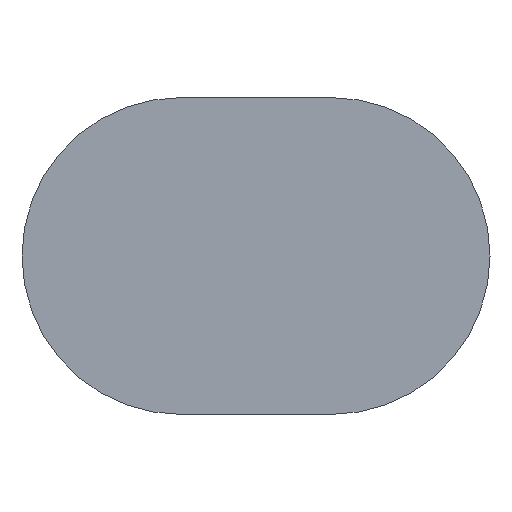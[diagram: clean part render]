
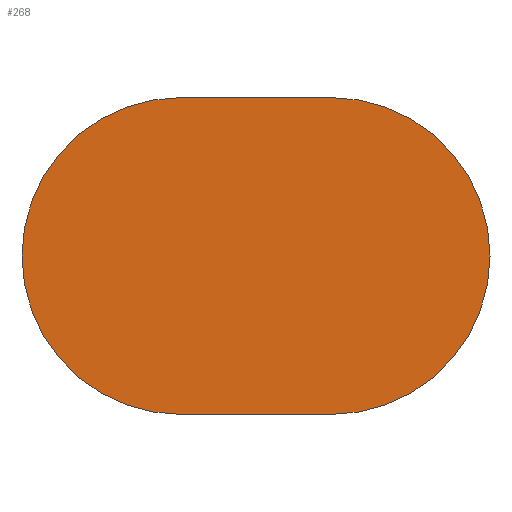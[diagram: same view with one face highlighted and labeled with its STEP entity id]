
A CAD part, left-side view. The second image highlights one B-rep face of the part: STEP entity #268.
In plain terms, the highlighted planar face has unit normal (-1, 0, 0).
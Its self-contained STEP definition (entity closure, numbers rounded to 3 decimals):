
#212 = VERTEX_POINT( '', #576 );
#224 = EDGE_CURVE( '', #246, #486, #591, .T. );
#246 = VERTEX_POINT( '', #614 );
#266 = VERTEX_POINT( '', #636 );
#268 = ADVANCED_FACE( '', ( #638 ), #639, .F. );
#362 = EDGE_CURVE( '', #212, #246, #743, .T. );
#470 = EDGE_CURVE( '', #486, #266, #861, .T. );
#486 = VERTEX_POINT( '', #880 );
#504 = EDGE_CURVE( '', #266, #212, #901, .T. );
#576 = CARTESIAN_POINT( '', ( 0., -2.1, -4.4 ) );
#591 = CIRCLE( '', #993, 4.4 );
#614 = CARTESIAN_POINT( '', ( 0., 2.1, -4.4 ) );
#636 = CARTESIAN_POINT( '', ( 0., -2.1, 4.4 ) );
#638 = FACE_OUTER_BOUND( '', #1056, .T. );
#639 = PLANE( '', #1057 );
#743 = LINE( '', #1196, #1197 );
#861 = LINE( '', #1366, #1367 );
#880 = CARTESIAN_POINT( '', ( 0., 2.1, 4.4 ) );
#901 = CIRCLE( '', #1419, 4.4 );
#993 = AXIS2_PLACEMENT_3D( '', #1515, #1516, #1517 );
#1056 = EDGE_LOOP( '', ( #1556, #1557, #1558, #1559 ) );
#1057 = AXIS2_PLACEMENT_3D( '', #1560, #1561, #1562 );
#1196 = CARTESIAN_POINT( '', ( 0., -2.1, -4.4 ) );
#1197 = VECTOR( '', #1678, 1. );
#1366 = CARTESIAN_POINT( '', ( 0., 2.1, 4.4 ) );
#1367 = VECTOR( '', #1799, 1. );
#1419 = AXIS2_PLACEMENT_3D( '', #1864, #1865, #1866 );
#1515 = CARTESIAN_POINT( '', ( 0., 2.1, 0. ) );
#1516 = DIRECTION( '', ( 1., 0., 0. ) );
#1517 = DIRECTION( '', ( 0., 0., -1. ) );
#1556 = ORIENTED_EDGE( '', *, *, #470, .F. );
#1557 = ORIENTED_EDGE( '', *, *, #224, .F. );
#1558 = ORIENTED_EDGE( '', *, *, #362, .F. );
#1559 = ORIENTED_EDGE( '', *, *, #504, .F. );
#1560 = CARTESIAN_POINT( '', ( 0., 0., 0. ) );
#1561 = DIRECTION( '', ( 1., 0., 0. ) );
#1562 = DIRECTION( '', ( 0., 0., -1. ) );
#1678 = DIRECTION( '', ( 0., 1., 0. ) );
#1799 = DIRECTION( '', ( 0., -1., 0. ) );
#1864 = CARTESIAN_POINT( '', ( 0., -2.1, 0. ) );
#1865 = DIRECTION( '', ( 1., 0., 0. ) );
#1866 = DIRECTION( '', ( 0., 0., 1. ) );
